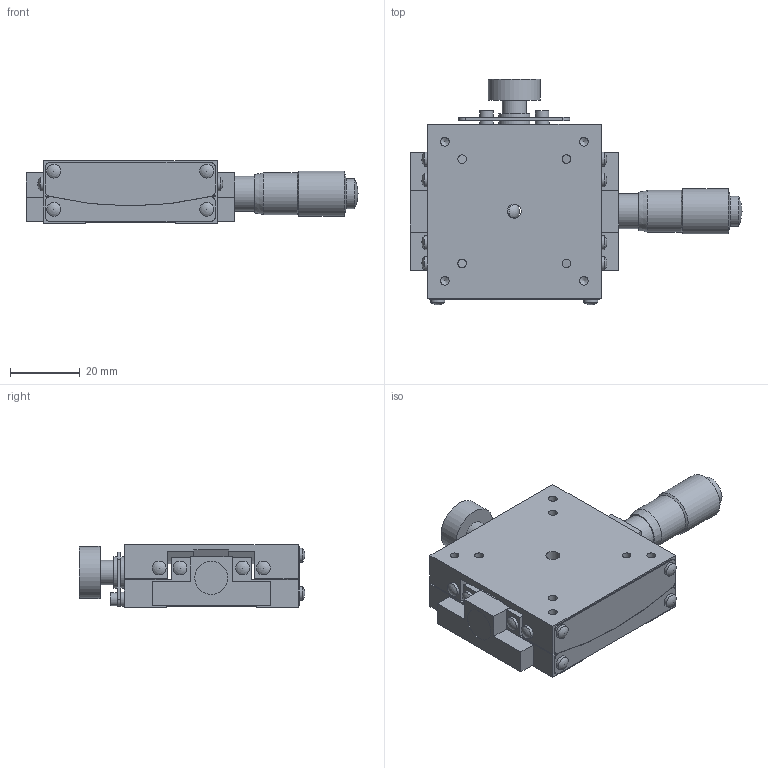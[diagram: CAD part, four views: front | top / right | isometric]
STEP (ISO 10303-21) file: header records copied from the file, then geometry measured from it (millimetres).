
FILE_DESCRIPTION( ( 'STEP AP214' ), '1' );
FILE_NAME( '//Srg14/OST事業部/技術G/各個人用/藤本/現在製作中の簡易形状+070424/3D_B58-50WLA+070424/3D_B58-50WLA+070424.step', '2007-04-30T02:29:46', ( ' ' ), ( ' ' ), 'XStep 1.0', ' ', ' ' );
FILE_SCHEMA( ( 'automotive_design' ) );
Length unit declared in the file: millimetre
Products named in the file (4): 1; 2; 3; 4
Bounding box: 95.5 x 64.9 x 18 mm (x, y, z)
Volume: 46115.2 mm3; surface area: 25629.5 mm2
Topology: 4 solids, 6 shells, 243 faces, 617 edges, 401 vertices
Faces by surface type: cylinder 109, plane 109, sphere 15, cone 10
Full cylindrical faces by diameter (mm): 2.5 x12, 3.5 x4, 3.8 x2, 4 x17, 5 x3, 6 x6, 6.5 x1, 7 x1, 8 x1, 8.6 x1, 9 x3, 9.5 x2, 10 x3, 10.5 x1, 11 x1, 12 x1, 13 x1, 15 x1
Entity records: 9114 total; most frequent: CARTESIAN_POINT 1684, DIRECTION 1165, ORIENTED_EDGE 974, EDGE_CURVE 487, AXIS2_PLACEMENT_3D 452, EDGE_LOOP 367, VERTEX_POINT 361, FACE_OUTER_BOUND 304
